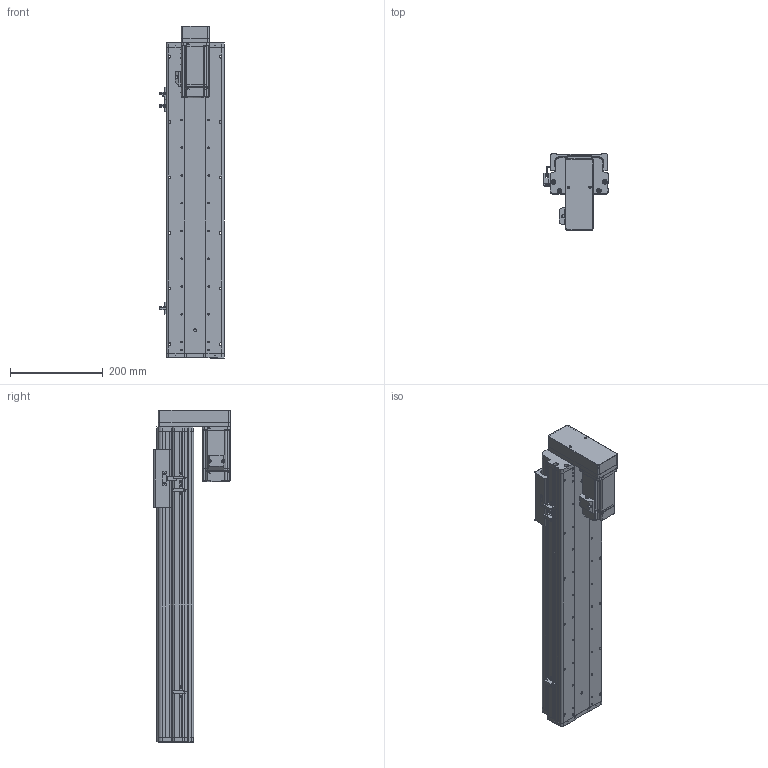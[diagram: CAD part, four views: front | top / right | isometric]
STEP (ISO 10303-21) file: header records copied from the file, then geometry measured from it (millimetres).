
FILE_DESCRIPTION (( 'STEP AP214' ), '1' );
FILE_NAME ('KSD125S-S450-MD-CM.STEP', '2017-10-21T08:01:51', ( '微软用户' ), ( '微软中国' ), 'SwSTEP 2.0', 'SolidWorks 2014', '' );
FILE_SCHEMA (( 'AUTOMOTIVE_DESIGN' ));
Length unit declared in the file: millimetre
Products named in the file (16): U倰嫖萇假蚾璃; U倰嫖萇EEㄜSX672; ヶ傷啣-125遵耀郪; KSD125-賑雄釱1; 125-帣傷啣1; KSD125S-S450-MD-CM; 125宽马达安装板连板上下折丝杆同步带; 125遵悵誘欶奻狟殏; HTPA30S3M150_A_H6_a佪裝蚚; HTPA30S3M150_A_H6_a萇儂蚚; KSD125S-450俴最佪裝滅鳥裔; KSD125S-450俴最佪裝菁啣; MHMD042G1CA_2_03; 拸萇儂釱滅袉菜; 拸萇儂釱滅袉菜-1; 覜茼え68遵圉猾敕
Assembly tree (19 placements, depth 2):
  KSD125S-S450-MD-CM
    125-帣傷啣1
    KSD125-賑雄釱1
    ヶ傷啣-125遵耀郪
    U倰嫖萇EEㄜSX672  x3
    U倰嫖萇假蚾璃  x3
    覜茼え68遵圉猾敕
    拸萇儂釱滅袉菜-1
    拸萇儂釱滅袉菜
    MHMD042G1CA_2_03
    KSD125S-450俴最佪裝菁啣
    KSD125S-450俴最佪裝滅鳥裔
    HTPA30S3M150_A_H6_a萇儂蚚
    HTPA30S3M150_A_H6_a佪裝蚚
    125遵悵誘欶奻狟殏
    125宽马达安装板连板上下折丝杆同步带
Bounding box: 138.7 x 165 x 717.5 mm (x, y, z)
Volume: 2481853.9 mm3; surface area: 861977.4 mm2
Topology: 18 solids, 21 shells, 2183 faces, 6327 edges, 4173 vertices
Faces by surface type: cylinder 1362, plane 680, cone 119, bspline 22
Entity records: 78107 total; most frequent: CARTESIAN_POINT 15637, DIRECTION 12001, ORIENTED_EDGE 11162, EDGE_CURVE 5659, AXIS2_PLACEMENT_3D 4635, VERTEX_POINT 3765, VECTOR 2731, LINE 2731
